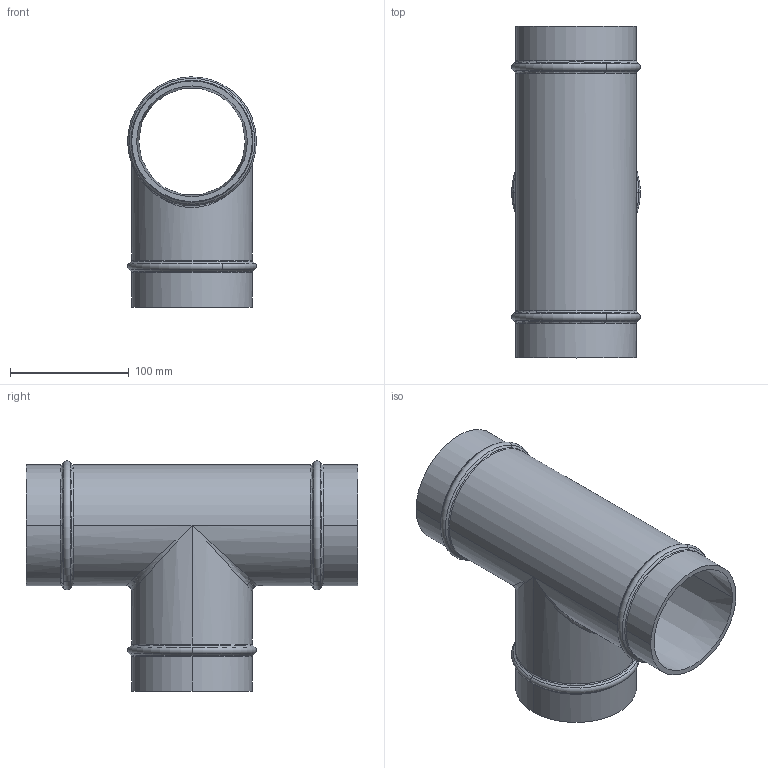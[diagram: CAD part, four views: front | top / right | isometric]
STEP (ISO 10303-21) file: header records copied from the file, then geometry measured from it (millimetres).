
FILE_DESCRIPTION(/* description */ (''),/* implementation_level */ '2;1');
FILE_NAME(/* name */ '8005_stp.stp',/* time_stamp */ '2025-06-20T11:31:10+08:00',/* author */ (''),/* organization */ (''),/* preprocessor_version */ 'ST-DEVELOPER v14',/* originating_system */ 'SIEMENS PLM Software NX 8.0',/* authorisation */ '');
FILE_SCHEMA (('AP203_CONFIGURATION_CONTROLLED_3D_DESIGN_OF_MECHANICAL_PARTS_AND_ASSEMBLIES_MIM_LF { 1 0 10303 403 2 1 2}'));
Length unit declared in the file: millimetre
Products named in the file (1): Admi0BECFFFE4xoc
Bounding box: 108.8 x 280 x 194.38 mm (x, y, z)
Volume: 562442.2 mm3; surface area: 224894 mm2
Topology: 1 solids, 1 shells, 58 faces, 131 edges, 70 vertices
Faces by surface type: cone 22, torus 20, cylinder 11, plane 3, bspline 2
Entity records: 2576 total; most frequent: CARTESIAN_POINT 1164, DIRECTION 322, ORIENTED_EDGE 254, AXIS2_PLACEMENT_3D 144, EDGE_CURVE 127, CIRCLE 87, VERTEX_POINT 70, EDGE_LOOP 61
